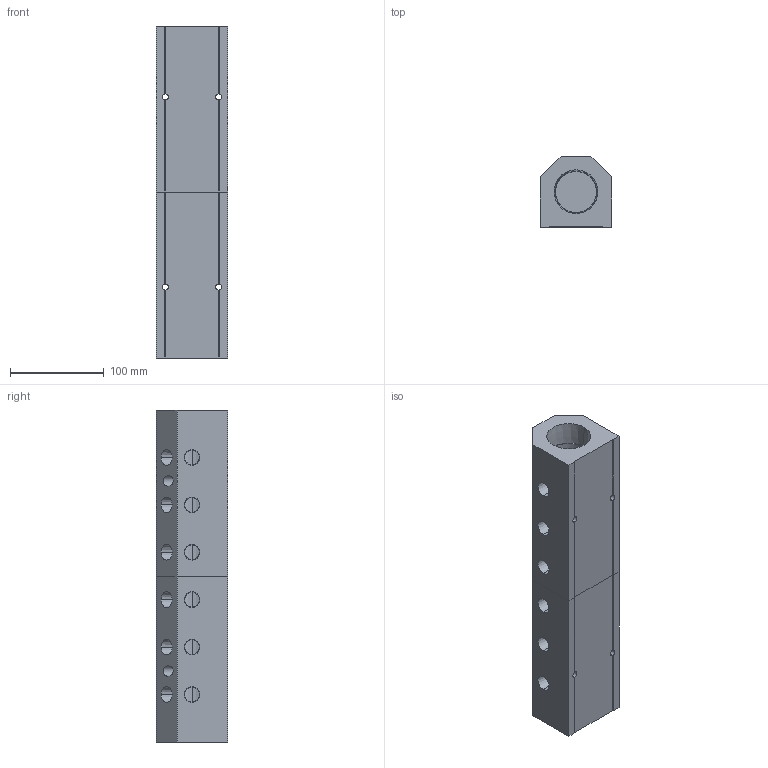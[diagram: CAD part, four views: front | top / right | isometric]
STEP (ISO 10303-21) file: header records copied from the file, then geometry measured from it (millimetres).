
FILE_DESCRIPTION (( 'STEP AP214' ), '1' );
FILE_NAME ('ALM6AB-N6N24-355RB.step', '2022-02-07T09:16:01', ( '' ), ( '' ), 'SwSTEP 2.0', 'SolidWorks 2020', '' );
FILE_SCHEMA (( 'AUTOMOTIVE_DESIGN' ));
Length unit declared in the file: millimetre
Products named in the file (1): ALM6AB-N6N24-355RB
Bounding box: 76.2 x 76.2 x 355 mm (x, y, z)
Volume: 1281822.4 mm3; surface area: 179870.6 mm2
Topology: 2 solids, 2 shells, 366 faces, 970 edges, 640 vertices
Faces by surface type: plane 238, bspline 80, cone 28, cylinder 20
Entity records: 20579 total; most frequent: CARTESIAN_POINT 8557, ORIENTED_EDGE 1940, DIRECTION 1408, EDGE_CURVE 970, LINE 706, VECTOR 706, VERTEX_POINT 640, EDGE_LOOP 430
